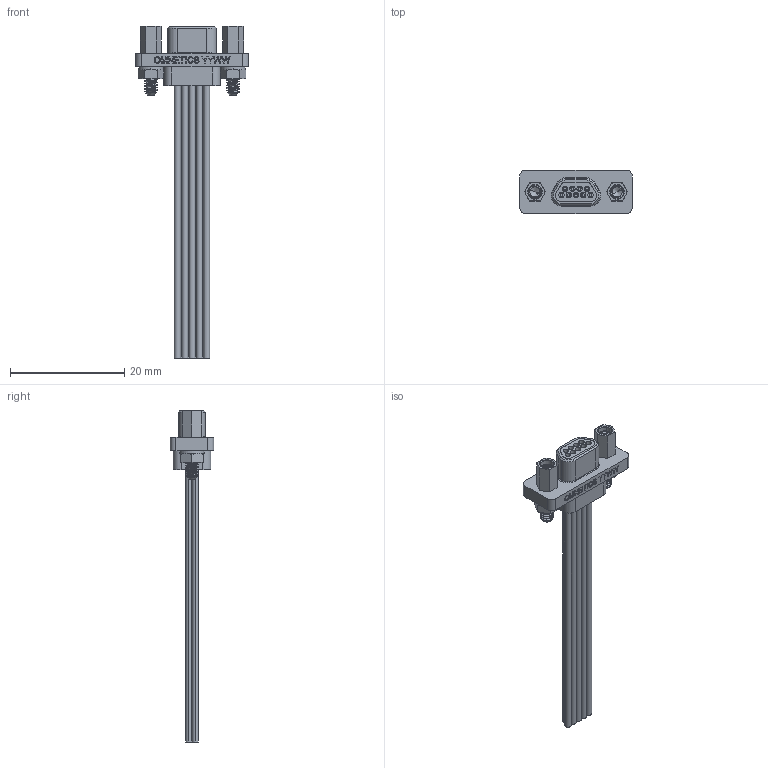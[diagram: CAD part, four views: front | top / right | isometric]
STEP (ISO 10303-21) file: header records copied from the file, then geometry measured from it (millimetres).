
FILE_DESCRIPTION (( 'STEP AP214' ), '1' );
FILE_NAME ('A98003-009 REV B.STEP', '2018-11-07T16:47:30', ( '' ), ( '' ), 'SwSTEP 2.0', 'SolidWorks 2018', '' );
FILE_SCHEMA (( 'AUTOMOTIVE_DESIGN' ));
Length unit declared in the file: inch
Products named in the file (1): A98003-009 REV B
Bounding box: 19.68 x 7.63 x 58.05 mm (x, y, z)
Volume: 1197.2 mm3; surface area: 2945.9 mm2
Topology: 1 solids, 1 shells, 588 faces, 1518 edges, 978 vertices
Faces by surface type: plane 227, cylinder 203, cone 81, bspline 72, torus 5
Entity records: 28445 total; most frequent: CARTESIAN_POINT 14881, ORIENTED_EDGE 3016, DIRECTION 2520, EDGE_CURVE 1508, VERTEX_POINT 978, AXIS2_PLACEMENT_3D 882, LINE 756, VECTOR 756
